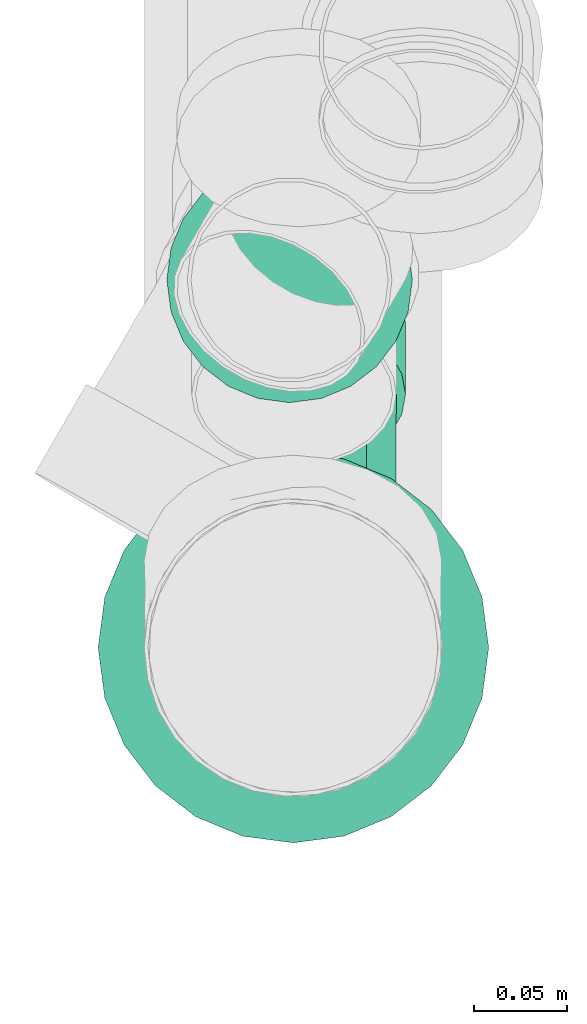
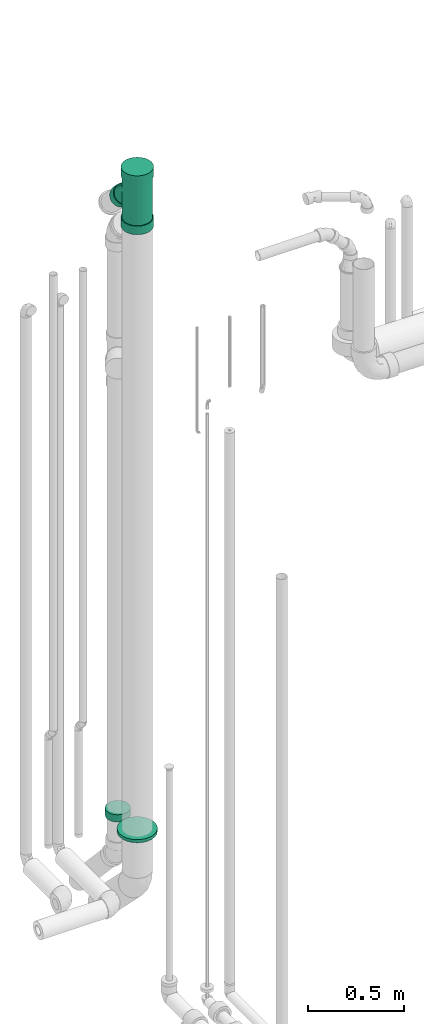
# One storey, part 52 of 78: 3 flow fittings.
"""IFC2X3 building model written with IfcOpenShell, lengths in millimetres."""

from ifc_helpers import new_model, entity, si_unit, converted_unit, derived_unit, direction, frame, origin_with_axes, place, context, subcontext, project, spatial, open_shell, surface_model, source, transform, mapped, type_object, element, save


model = new_model("IFC2X3")

# Units and contexts
model_context = context("Model", 3, precision=0.01, world=frame((0.0, 4.29681676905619e-09, 0.0)), true_north=direction((4.01073788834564e-13, 1.0)))
plan_context = context("Plan", 3, precision=0.01, world=frame((0.0, 4.29681676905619e-09, 0.0)), true_north=direction((4.01073788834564e-13, 1.0)))
body_context = subcontext(model_context, "Body", "Model", "MODEL_VIEW")
ifc_project = project(units=[converted_unit("PLANEANGLEUNIT", "DEGREE", entity("IfcPositiveLengthMeasure", 0.0174532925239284), si_unit("PLANEANGLEUNIT", "RADIAN"), dimensions=[0, 0, 0, 0, 0, 0, 0]), si_unit("AREAUNIT", "SQUARE_METRE"), si_unit("LENGTHUNIT", "METRE", prefix="MILLI"), si_unit("MASSUNIT", "GRAM", prefix="KILO"), si_unit("POWERUNIT", "WATT"), si_unit("PRESSUREUNIT", "PASCAL"), si_unit("FORCEUNIT", "NEWTON", prefix="KILO"), si_unit("ELECTRICVOLTAGEUNIT", "VOLT"), si_unit("ELECTRICCURRENTUNIT", "AMPERE"), si_unit("THERMODYNAMICTEMPERATUREUNIT", "DEGREE_CELSIUS"), si_unit("TIMEUNIT", "SECOND"), si_unit("VOLUMEUNIT", "CUBIC_METRE"), derived_unit("LINEARVELOCITYUNIT", [(si_unit("LENGTHUNIT", "METRE"), 1), (si_unit("TIMEUNIT", "SECOND"), -1)]), derived_unit("VOLUMETRICFLOWRATEUNIT", [(si_unit("VOLUMEUNIT", "CUBIC_METRE"), 1), (si_unit("TIMEUNIT", "SECOND"), -1)]), derived_unit("THERMALTRANSMITTANCEUNIT", [(si_unit("POWERUNIT", "WATT"), 1), (si_unit("THERMODYNAMICTEMPERATUREUNIT", "KELVIN"), -1), (si_unit("AREAUNIT", "SQUARE_METRE"), -1)]), derived_unit("SOUNDPRESSUREUNIT", [(si_unit("PRESSUREUNIT", "PASCAL"), 1)])], contexts=[model_context, plan_context])

# Site, building, storey
site_placement = place(None, frame((0.0, -4.29681676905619e-09, 0.0), z_axis=(0.0, 0.0, 1.0), x_axis=(1.0, 0.0, 0.0)))
site = spatial("IfcSite", under=ifc_project, at=site_placement, Name="ENGM", CompositionType="ELEMENT")
building_placement = place(site_placement, frame((0.0, 4.29681676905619e-09, 0.0), z_axis=(0.0, 0.0, 1.0), x_axis=(1.0, 0.0, 0.0)))
building = spatial("IfcBuilding", under=site, at=building_placement, Name="TH", CompositionType="ELEMENT")
storey_placement = place(building_placement, frame((0.0, 0.0, 205200.0), z_axis=(0.0, 0.0, 1.0), x_axis=(1.0, 0.0, 0.0)))
storey = spatial("IfcBuildingStorey", under=building, at=storey_placement, Name="Nivå D + 1,2 m", CompositionType="ELEMENT", Elevation=205200.0)

# Flow fittings
pipe_fitting_type_1 = type_object("IfcPipeFittingType", Name="magi_sewer_tee_wye_NOR", PredefinedType="JUNCTION")
shared_shape_1 = source(origin_with_axes(), body_context, "Body", "SurfaceModel", [
    surface_model("IfcShellBasedSurfaceModel", [(254.45941, 42.5, -73.61216), (254.45941, -21.99962, -82.10369), (254.45941, 21.99962, -82.10369), (254.45941, 73.61216, -42.5), (254.45941, 60.10408, -60.10408), (254.45941, 82.10369, -21.99962), (254.45941, 85.0, 0.0), (254.45941, -82.10369, -21.99962), (254.45941, -42.5, -73.61216), (254.45941, 0.0, -85.0), (254.45941, -60.10408, -60.10408), (254.45941, -73.61216, -42.5), (254.45941, 82.10369, 21.99962), (254.45941, 73.61216, 42.5), (254.45941, 60.10408, 60.10408), (254.45941, 21.99962, 82.10369), (254.45941, -73.61216, 42.5), (254.45941, 42.5, 73.61216), (254.45941, -21.99962, 82.10369), (254.45941, 0.0, 85.0), (254.45941, -82.10369, 21.99962), (254.45941, -85.0, 0.0), (254.45941, -60.10408, 60.10408), (254.45941, -42.5, 73.61216), (200.45942, 21.99962, 82.10369), (200.45942, -21.99962, 82.10369), (200.45942, 0.0, 85.0), (200.45942, 82.10369, 21.99962), (200.45942, 42.5, 73.61216), (200.45942, 60.10408, 60.10408), (200.45942, 73.61216, 42.5), (200.45942, -82.10369, -21.99962), (200.45942, -85.0, 0.0), (200.45942, -60.10408, 60.10408), (200.45942, -42.5, 73.61216), (200.45942, -73.61216, 42.5), (200.45942, -82.10369, 21.99962), (200.45942, 85.0, 0.0), (200.45942, 82.10369, -21.99962), (200.45942, 73.61216, -42.5), (200.45942, 42.5, -73.61216), (200.45942, 60.10408, -60.10408), (200.45942, -21.99962, -82.10369), (200.45942, 21.99962, -82.10369), (200.45942, -60.10408, -60.10408), (200.45942, -73.61216, -42.5), (200.45942, -42.5, -73.61216), (200.45942, 0.0, -85.0), (157.78174, -115.35534, -51.96152), (147.54931, -125.58778, -57.95555), (136.56854, -136.56854, -60.0), (99.82619, -173.3109, -30.0), (177.5493, -95.58778, -15.52914), (173.3109, -99.82619, -30.0), (166.56854, -106.56854, -42.42641), (106.56854, -166.56854, -42.42641), (115.35534, -157.78174, -51.96152), (125.58778, -147.54931, -57.95555), (95.58778, -177.5493, -15.52914), (99.82619, -173.3109, 30.0), (94.14214, -178.99494, 0.0), (95.58778, -177.5493, 15.52914), (177.5493, -95.58778, 15.52914), (173.3109, -99.82619, 30.0), (166.56854, -106.56854, 42.42641), (147.54931, -125.58778, 57.95555), (157.78174, -115.35534, 51.96152), (136.56854, -136.56854, 60.0), (106.56854, -166.56854, 42.42641), (115.35534, -157.78174, 51.96152), (125.58778, -147.54931, 57.95555), (178.99494, -94.14214, 0.0), (174.75231, -174.75231, -60.0), (185.73307, -163.77154, -57.95555), (195.96551, -153.5391, -51.96152), (211.49465, -138.00996, -30.0), (138.00996, -211.49465, -30.0), (204.75231, -144.75231, -42.42641), (215.73307, -133.77155, 15.52914), (153.5391, -195.96551, -51.96152), (144.75231, -204.75231, -42.42641), (163.77154, -185.73307, -57.95555), (133.77155, -215.73307, 15.52914), (133.77155, -215.73307, -15.52914), (132.3259, -217.17871, 0.0), (215.73307, -133.77155, -15.52914), (217.17871, -132.3259, 0.0), (211.49465, -138.00996, 30.0), (195.96551, -153.5391, 51.96152), (185.73307, -163.77154, 57.95555), (204.75231, -144.75231, 42.42641), (153.5391, -195.96551, 51.96152), (138.00996, -211.49465, 30.0), (144.75231, -204.75231, 42.42641), (174.75231, -174.75231, 60.0), (163.77154, -185.73307, 57.95555), (-117.89087, -42.5, -73.61216), (-117.89087, 21.99962, -82.10369), (-117.89087, -21.99962, -82.10369), (-117.89087, -73.61216, -42.5), (-117.89087, -60.10408, -60.10408), (-117.89087, -82.10369, -21.99962), (-117.89087, -85.0, 0.0), (-117.89087, 82.10369, -21.99962), (-117.89087, 42.5, -73.61216), (-117.89087, 0.0, -85.0), (-117.89087, 60.10408, -60.10408), (-117.89087, 73.61216, -42.5), (-117.89087, -82.10369, 21.99962), (-117.89087, -73.61216, 42.5), (-117.89087, -60.10408, 60.10408), (-117.89087, -21.99962, 82.10369), (-117.89087, 73.61216, 42.5), (-117.89087, -42.5, 73.61216), (-117.89087, 21.99962, 82.10369), (-117.89087, 0.0, 85.0), (-117.89087, 82.10369, 21.99962), (-117.89087, 85.0, 0.0), (-117.89087, 60.10408, 60.10408), (-117.89087, 42.5, 73.61216), (-63.89087, -21.99962, 82.10369), (-63.89087, 21.99962, 82.10369), (-63.89087, 0.0, 85.0), (-63.89087, -82.10369, 21.99962), (-63.89087, -42.5, 73.61216), (-63.89087, -60.10408, 60.10408), (-63.89087, -73.61216, 42.5), (-63.89087, 82.10369, -21.99962), (-63.89087, 85.0, 0.0), (-63.89087, 60.10408, 60.10408), (-63.89087, 42.5, 73.61216), (-63.89087, 73.61216, 42.5), (-63.89087, 82.10369, 21.99962), (-63.89087, -85.0, 0.0), (-63.89087, -82.10369, -21.99962), (-63.89087, -73.61216, -42.5), (-63.89087, -42.5, -73.61216), (-63.89087, -60.10408, -60.10408), (-63.89087, 21.99962, -82.10369), (-63.89087, -21.99962, -82.10369), (-63.89087, 60.10408, -60.10408), (-63.89087, 73.61216, -42.5), (-63.89087, 42.5, -73.61216), (-63.89087, 0.0, -85.0), (200.45942, 20.70552, -77.27406), (200.45942, 40.0, -69.28203), (200.45942, 56.56854, -56.56854), (200.45942, 69.28203, -40.0), (200.45942, 77.27406, -20.70552), (200.45942, 80.0, 0.0), (200.45942, -77.27406, -20.70552), (200.45942, -80.0, 0.0), (200.45942, 56.56854, 56.56854), (200.45942, -20.70552, -77.27406), (200.45942, -56.56854, -56.56854), (200.45942, -40.0, -69.28203), (200.45942, 0.0, -80.0), (200.45942, -69.28203, -40.0), (200.45942, 69.28203, 40.0), (200.45942, 40.0, 69.28203), (200.45942, 20.70552, 77.27406), (200.45942, 0.0, 80.0), (200.45942, -77.27406, 20.70552), (200.45942, -56.56854, 56.56854), (200.45942, -69.28203, 40.0), (200.45942, -40.0, 69.28203), (200.45942, -20.70552, 77.27406), (200.45942, 77.27406, 20.70552), (-63.89087, 0.0, 80.0), (-63.89087, 20.70552, 77.27406), (-63.89087, 40.0, 69.28203), (-63.89087, -40.0, 69.28203), (-63.89087, 56.56854, 56.56854), (-63.89087, 69.28203, 40.0), (-63.89087, 77.27406, 20.70552), (-63.89087, -77.27406, 20.70552), (-63.89087, -56.56854, 56.56854), (-63.89087, -20.70552, 77.27406), (-63.89087, -69.28203, 40.0), (-63.89087, -80.0, 0.0), (-63.89087, 80.0, 0.0), (-63.89087, 77.27406, -20.70552), (-63.89087, 69.28203, -40.0), (-63.89087, 20.70552, -77.27406), (-63.89087, 56.56854, -56.56854), (-63.89087, 40.0, -69.28203), (-63.89087, -77.27406, -20.70552), (-63.89087, -56.56854, -56.56854), (-63.89087, -69.28203, -40.0), (-63.89087, -40.0, -69.28203), (-63.89087, -20.70552, -77.27406), (-63.89087, 0.0, -80.0), (2.21825, -80.0, 0.0), (5.37269, -77.13629, -21.21303), (15.08193, -69.79992, -39.08927), (-63.89087, -62.92529, -48.28427), (31.54924, -61.94252, -50.62731), (52.45448, -58.23854, -54.84772), (134.11724, -72.58271, -33.6415), (200.45942, -73.27805, -30.35276), (157.78174, -80.0, 0.0), (150.09411, -77.51627, -19.77949), (142.10568, -75.04949, -26.71049), (95.20469, -62.5225, -49.90929), (115.34457, -67.29918, -43.25298), (74.12733, -59.06322, -53.95865), (52.45448, -58.23854, 54.84772), (15.08193, -69.79992, 39.08927), (-63.89087, -62.92529, 48.28427), (142.10568, -75.04949, 26.71049), (150.09411, -77.51627, 19.77949), (31.54924, -61.94252, 50.62731), (5.37269, -77.13629, 21.21303), (74.12733, -59.06322, 53.95865), (95.20469, -62.5225, 49.90929), (115.34457, -67.29918, 43.25298), (134.11724, -72.58271, 33.6415), (200.45942, -73.27805, 30.35276), (146.63425, -126.50284, -53.12592), (126.50284, -146.63425, -53.12592), (136.56854, -136.56854, -55.0), (174.13425, -99.00284, -14.23505), (156.01399, -117.1231, -47.63139), (164.06855, -109.06854, -38.89087), (170.24902, -102.88806, -27.5), (174.13425, -99.00284, 14.23505), (109.06854, -164.06855, -38.89087), (117.1231, -156.01399, -47.63139), (99.00284, -174.13425, -14.23505), (102.88806, -170.24902, -27.5), (102.88806, -170.24902, 27.5), (99.00284, -174.13425, 14.23505), (97.67767, -175.45942, 0.0), (164.06855, -109.06854, 38.89087), (170.24902, -102.88806, 27.5), (156.01399, -117.1231, 47.63139), (136.56854, -136.56854, 55.0), (146.63425, -126.50284, 53.12592), (117.1231, -156.01399, 47.63139), (109.06854, -164.06855, 38.89087), (126.50284, -146.63425, 53.12592), (175.45942, -97.67767, 0.0), (23.31558, -65.87122, 44.85829), (3.79547, -78.56814, 10.60652), (153.93793, -78.75814, 9.88974), (174.79683, -98.34025, 7.11752), (10.22731, -73.46811, 30.15115), (155.85984, -79.37907, 4.94487), (172.19163, -100.94546, 20.86752), (167.15878, -105.9783, 33.19544), (152.01602, -78.1372, 14.83462), (174.79683, -98.34025, -7.11752), (153.93793, -78.75814, -9.88974), (172.19163, -100.94546, -20.86752), (167.15878, -105.9783, -33.19544), (155.85984, -79.37907, -4.94487), (152.01602, -78.1372, -14.83462), (10.22731, -73.46811, -30.15115), (23.31558, -65.87122, -44.85829), (3.79547, -78.56814, -10.60652)], [open_shell([[[0, 1, 2]], [[3, 0, 4]], [[3, 5, 6]], [[3, 6, 0]], [[1, 0, 6]], [[1, 7, 8]], [[1, 9, 2]], [[10, 7, 11]], [[7, 10, 8]], [[6, 7, 1]], [[6, 12, 7]], [[12, 13, 14]], [[12, 14, 15]], [[7, 15, 16]], [[15, 14, 17]], [[18, 15, 19]], [[16, 20, 7]], [[21, 7, 20]], [[22, 18, 23]], [[18, 22, 16]], [[18, 16, 15]], [[15, 7, 12]], [[24, 25, 26]], [[27, 24, 28]], [[29, 30, 27]], [[29, 27, 28]], [[31, 32, 24]], [[25, 33, 34]], [[33, 25, 35]], [[25, 36, 35]], [[36, 25, 32]], [[25, 24, 32]], [[24, 27, 31]], [[37, 38, 39]], [[37, 39, 40]], [[40, 31, 27]], [[40, 39, 41]], [[42, 40, 43]], [[31, 44, 45]], [[44, 31, 46]], [[31, 42, 46]], [[31, 40, 42]], [[43, 47, 42]], [[40, 27, 37]], [[31, 7, 32]], [[45, 11, 31]], [[8, 44, 46]], [[45, 44, 10]], [[1, 46, 42]], [[31, 11, 7]], [[7, 21, 32]], [[1, 8, 46]], [[10, 44, 8]], [[10, 11, 45]], [[9, 1, 42]], [[42, 47, 9]], [[0, 40, 41]], [[3, 39, 38]], [[41, 39, 4]], [[37, 5, 38]], [[40, 2, 43]], [[40, 0, 2]], [[2, 9, 43]], [[41, 4, 0]], [[39, 3, 4]], [[5, 3, 38]], [[37, 6, 5]], [[43, 9, 47]], [[27, 12, 37]], [[30, 13, 27]], [[17, 29, 28]], [[30, 29, 14]], [[15, 28, 24]], [[27, 13, 12]], [[12, 6, 37]], [[15, 17, 28]], [[14, 29, 17]], [[14, 13, 30]], [[19, 15, 24]], [[24, 26, 19]], [[18, 25, 34]], [[33, 23, 34]], [[16, 35, 36]], [[33, 35, 22]], [[20, 36, 32]], [[25, 18, 26]], [[34, 23, 18]], [[26, 18, 19]], [[33, 22, 23]], [[35, 16, 22]], [[20, 16, 36]], [[32, 21, 20]], [[48, 49, 50]], [[48, 50, 51]], [[52, 53, 54]], [[48, 52, 54]], [[52, 48, 51]], [[55, 51, 56]], [[50, 57, 56]], [[58, 59, 51]], [[51, 50, 56]], [[58, 60, 61]], [[52, 51, 59]], [[62, 52, 59]], [[63, 62, 64]], [[62, 65, 66]], [[64, 62, 66]], [[65, 62, 67]], [[59, 68, 62]], [[59, 58, 61]], [[69, 70, 68]], [[67, 68, 70]], [[62, 68, 67]], [[62, 71, 52]], [[72, 73, 74]], [[72, 74, 75]], [[72, 75, 76]], [[75, 74, 77]], [[76, 75, 78]], [[79, 76, 80]], [[76, 79, 81]], [[76, 82, 83]], [[76, 81, 72]], [[82, 84, 83]], [[75, 85, 86]], [[82, 76, 78]], [[87, 82, 78]], [[88, 89, 87]], [[88, 87, 90]], [[89, 91, 87]], [[92, 91, 93]], [[91, 92, 82]], [[91, 94, 95]], [[91, 82, 87]], [[89, 94, 91]], [[78, 75, 86]], [[82, 60, 84]], [[92, 61, 82]], [[91, 95, 70]], [[93, 91, 69]], [[93, 59, 92]], [[92, 59, 61]], [[61, 60, 82]], [[68, 59, 93]], [[70, 69, 91]], [[95, 67, 70]], [[68, 93, 69]], [[95, 94, 67]], [[66, 89, 88]], [[90, 64, 88]], [[62, 87, 78]], [[90, 87, 63]], [[71, 78, 86]], [[89, 65, 94]], [[89, 66, 65]], [[94, 65, 67]], [[88, 64, 66]], [[90, 63, 64]], [[62, 63, 87]], [[78, 71, 62]], [[71, 86, 85]], [[52, 85, 75]], [[48, 77, 74]], [[49, 74, 73]], [[75, 77, 53]], [[85, 52, 71]], [[52, 75, 53]], [[53, 77, 54]], [[77, 48, 54]], [[49, 48, 74]], [[73, 50, 49]], [[73, 72, 50]], [[56, 81, 79]], [[80, 55, 79]], [[58, 76, 83]], [[80, 76, 51]], [[60, 83, 84]], [[81, 57, 72]], [[81, 56, 57]], [[72, 57, 50]], [[79, 55, 56]], [[80, 51, 55]], [[58, 51, 76]], [[83, 60, 58]], [[96, 97, 98]], [[99, 96, 100]], [[99, 101, 102]], [[99, 102, 96]], [[97, 96, 102]], [[97, 103, 104]], [[97, 105, 98]], [[106, 103, 107]], [[103, 106, 104]], [[102, 103, 97]], [[102, 108, 103]], [[108, 109, 110]], [[108, 110, 111]], [[103, 111, 112]], [[111, 110, 113]], [[114, 111, 115]], [[112, 116, 103]], [[117, 103, 116]], [[118, 114, 119]], [[114, 118, 112]], [[114, 112, 111]], [[111, 103, 108]], [[120, 121, 122]], [[123, 120, 124]], [[125, 126, 123]], [[125, 123, 124]], [[127, 128, 120]], [[121, 129, 130]], [[129, 121, 131]], [[121, 132, 131]], [[132, 121, 128]], [[121, 120, 128]], [[120, 123, 127]], [[133, 134, 135]], [[133, 135, 136]], [[136, 127, 123]], [[136, 135, 137]], [[138, 136, 139]], [[127, 140, 141]], [[140, 127, 142]], [[127, 138, 142]], [[127, 136, 138]], [[139, 143, 138]], [[136, 123, 133]], [[127, 103, 128]], [[141, 107, 127]], [[104, 140, 142]], [[141, 140, 106]], [[97, 142, 138]], [[127, 107, 103]], [[103, 117, 128]], [[97, 104, 142]], [[106, 140, 104]], [[106, 107, 141]], [[105, 97, 138]], [[138, 143, 105]], [[96, 136, 137]], [[99, 135, 134]], [[137, 135, 100]], [[133, 101, 134]], [[136, 98, 139]], [[136, 96, 98]], [[98, 105, 139]], [[137, 100, 96]], [[135, 99, 100]], [[101, 99, 134]], [[133, 102, 101]], [[139, 105, 143]], [[123, 108, 133]], [[126, 109, 123]], [[113, 125, 124]], [[126, 125, 110]], [[111, 124, 120]], [[123, 109, 108]], [[108, 102, 133]], [[111, 113, 124]], [[110, 125, 113]], [[110, 109, 126]], [[115, 111, 120]], [[120, 122, 115]], [[114, 121, 130]], [[129, 119, 130]], [[112, 131, 132]], [[129, 131, 118]], [[116, 132, 128]], [[121, 114, 122]], [[130, 119, 114]], [[122, 114, 115]], [[129, 118, 119]], [[131, 112, 118]], [[116, 112, 132]], [[128, 117, 116]], [[144, 145, 146]], [[144, 146, 147]], [[147, 148, 149]], [[150, 144, 151]], [[147, 152, 144]], [[153, 154, 155]], [[153, 156, 144]], [[154, 150, 157]], [[154, 153, 144]], [[150, 154, 144]], [[147, 149, 158]], [[158, 152, 147]], [[151, 144, 152]], [[159, 160, 161]], [[152, 159, 162]], [[161, 163, 159]], [[162, 163, 164]], [[162, 151, 152]], [[161, 165, 163]], [[162, 159, 163]], [[166, 165, 161]], [[158, 149, 167]], [[168, 169, 170]], [[171, 168, 170]], [[172, 173, 174]], [[171, 170, 172]], [[171, 172, 174]], [[171, 175, 176]], [[171, 177, 168]], [[176, 175, 178]], [[175, 171, 179]], [[174, 179, 171]], [[174, 180, 179]], [[180, 181, 182]], [[180, 182, 183]], [[184, 185, 183]], [[184, 183, 182]], [[183, 186, 179]], [[186, 187, 188]], [[187, 186, 189]], [[183, 190, 189]], [[189, 186, 183]], [[191, 190, 183]], [[183, 179, 180]], [[179, 186, 192]], [[193, 192, 186]], [[186, 194, 193]], [[195, 187, 196]], [[194, 188, 195]], [[197, 196, 187]], [[187, 189, 197]], [[188, 194, 186]], [[198, 157, 199]], [[200, 201, 151]], [[150, 151, 201]], [[198, 199, 202]], [[157, 203, 154]], [[150, 202, 199]], [[198, 204, 157]], [[157, 204, 203]], [[150, 201, 202]], [[203, 205, 154]], [[194, 195, 196]], [[197, 154, 205]], [[153, 190, 191]], [[155, 189, 190]], [[156, 191, 183]], [[182, 181, 147]], [[145, 185, 184]], [[146, 184, 182]], [[183, 185, 144]], [[148, 181, 180]], [[197, 155, 154]], [[153, 155, 190]], [[191, 156, 153]], [[144, 156, 183]], [[185, 145, 144]], [[145, 184, 146]], [[147, 146, 182]], [[148, 147, 181]], [[180, 149, 148]], [[155, 197, 189]], [[158, 174, 173]], [[158, 173, 172]], [[180, 174, 167]], [[168, 177, 161]], [[159, 170, 169]], [[160, 169, 168]], [[172, 170, 152]], [[166, 177, 171]], [[167, 174, 158]], [[172, 152, 158]], [[167, 149, 180]], [[170, 159, 152]], [[159, 169, 160]], [[161, 160, 168]], [[166, 161, 177]], [[165, 166, 171]], [[171, 206, 165]], [[178, 207, 208]], [[162, 209, 210]], [[211, 206, 176]], [[207, 211, 208]], [[206, 163, 165]], [[175, 179, 192]], [[212, 207, 175]], [[192, 212, 175]], [[175, 207, 178]], [[213, 214, 163]], [[211, 176, 208]], [[214, 164, 163]], [[164, 214, 215]], [[164, 215, 216]], [[217, 216, 209]], [[213, 163, 206]], [[162, 217, 209]], [[210, 151, 162]], [[151, 210, 200]], [[216, 217, 164]], [[206, 171, 176]], [[218, 219, 220]], [[221, 218, 222]], [[223, 224, 221]], [[223, 221, 222]], [[218, 225, 219]], [[219, 226, 227]], [[226, 219, 228]], [[226, 228, 229]], [[228, 219, 230]], [[228, 231, 232]], [[225, 218, 221]], [[219, 225, 230]], [[233, 225, 234]], [[225, 235, 236]], [[235, 225, 233]], [[237, 236, 235]], [[230, 238, 239]], [[231, 228, 230]], [[238, 236, 240]], [[238, 230, 225]], [[236, 238, 225]], [[225, 221, 241]], [[212, 231, 230]], [[238, 211, 242]], [[211, 238, 240]], [[242, 239, 238]], [[206, 240, 236]], [[243, 232, 231]], [[192, 232, 243]], [[244, 225, 245]], [[239, 246, 230]], [[207, 239, 242]], [[246, 239, 207]], [[231, 212, 243]], [[240, 206, 211]], [[241, 247, 245]], [[236, 213, 206]], [[214, 237, 235]], [[233, 215, 235]], [[210, 248, 225]], [[234, 209, 249]], [[245, 247, 244]], [[237, 214, 213]], [[214, 235, 215]], [[247, 241, 200]], [[248, 209, 234]], [[216, 233, 249]], [[216, 249, 209]], [[250, 210, 225]], [[209, 248, 210]], [[215, 233, 216]], [[225, 244, 250]], [[237, 213, 236]], [[246, 212, 230]], [[251, 221, 252]], [[202, 253, 224]], [[204, 223, 222]], [[254, 223, 198]], [[203, 222, 218]], [[201, 221, 253]], [[251, 255, 241]], [[201, 253, 202]], [[202, 254, 198]], [[222, 203, 204]], [[203, 218, 205]], [[221, 256, 252]], [[254, 202, 224]], [[198, 223, 204]], [[221, 201, 256]], [[218, 220, 205]], [[196, 219, 227]], [[229, 193, 257]], [[193, 229, 228]], [[257, 226, 229]], [[219, 197, 220]], [[219, 196, 197]], [[251, 252, 255]], [[220, 197, 205]], [[226, 258, 227]], [[194, 226, 257]], [[259, 232, 192]], [[258, 196, 227]], [[232, 259, 228]], [[258, 226, 194]], [[259, 193, 228]], [[241, 255, 200]]])]),
])
flow_fitting_1_placement = place(storey_placement, frame((895839.4078, 479825.2648, 8722.87419), z_axis=(-1.0, 0.0, 0.0), x_axis=(0.0, 3.999999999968e-06, -0.999999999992)))
element("IfcFlowFitting", 1, at=flow_fitting_1_placement, inside=storey, type_object=pipe_fitting_type_1, Name="magi_sewer_tee_wye_NOR", context=body_context, shape_type="MappedRepresentation", body=[
    mapped(shared_shape_1, transform((0.0, 0.0, 0.0), scale=1.0)),
])
pipe_fitting_type_2 = type_object("IfcPipeFittingType", Name="magi_sewer_union_NOR", PredefinedType="CONNECTOR")
shared_shape_2 = source(origin_with_axes(), body_context, "Body", "SurfaceModel", [
    surface_model("IfcShellBasedSurfaceModel", [(0.0, 17.08206, -63.75111), (0.0, 0.0, -66.0), (0.0, 63.75111, -17.08206), (0.0, 33.0, -57.15768), (0.0, 46.66905, -46.66905), (0.0, 57.15768, -33.0), (0.0, -63.75111, -17.08206), (0.0, -33.0, -57.15768), (0.0, -46.66905, -46.66905), (0.0, -17.08206, -63.75111), (0.0, -57.15768, -33.0), (0.0, -66.0, 0.0), (0.0, -33.0, 57.15768), (0.0, 33.0, 57.15768), (0.0, 63.75111, 17.08206), (0.0, 66.0, 0.0), (0.0, 46.66905, 46.66905), (0.0, 57.15768, 33.0), (0.0, 17.08206, 63.75111), (0.0, 0.0, 66.0), (0.0, -57.15768, 33.0), (0.0, -46.66905, 46.66905), (0.0, -63.75111, 17.08206), (0.0, -17.08206, 63.75111), (46.5, 63.75111, -17.08206), (46.5, 0.0, -66.0), (46.5, 17.08206, -63.75111), (46.5, 46.66905, -46.66905), (46.5, 33.0, -57.15768), (46.5, 57.15768, -33.0), (46.5, -63.75111, -17.08206), (46.5, -17.08206, -63.75111), (46.5, -46.66905, -46.66905), (46.5, -33.0, -57.15768), (46.5, -57.15768, -33.0), (46.5, -63.75111, 17.08206), (46.5, -66.0, 0.0), (46.5, 46.66905, 46.66905), (46.5, 66.0, 0.0), (46.5, 63.75111, 17.08206), (46.5, 57.15768, 33.0), (46.5, 33.0, 57.15768), (46.5, 0.0, 66.0), (46.5, 17.08206, 63.75111), (46.5, -46.66905, 46.66905), (46.5, -57.15768, 33.0), (46.5, -33.0, 57.15768), (46.5, -17.08206, 63.75111)], [open_shell([[[0, 1, 2]], [[3, 0, 4]], [[2, 5, 4]], [[0, 2, 4]], [[6, 2, 1]], [[7, 8, 9]], [[8, 1, 9]], [[10, 6, 8]], [[8, 6, 1]], [[11, 12, 6]], [[13, 2, 6]], [[14, 15, 16]], [[17, 14, 16]], [[13, 6, 12]], [[16, 15, 13]], [[18, 13, 19]], [[20, 21, 22]], [[21, 11, 22]], [[23, 19, 12]], [[21, 12, 11]], [[12, 19, 13]], [[15, 2, 13]], [[24, 25, 26]], [[27, 26, 28]], [[27, 29, 24]], [[27, 24, 26]], [[25, 24, 30]], [[31, 32, 33]], [[31, 25, 32]], [[32, 30, 34]], [[25, 30, 32]], [[30, 35, 36]], [[30, 24, 35]], [[37, 38, 39]], [[37, 39, 40]], [[38, 41, 35]], [[41, 38, 37]], [[42, 41, 43]], [[35, 44, 45]], [[44, 35, 46]], [[46, 42, 47]], [[46, 35, 41]], [[41, 42, 46]], [[38, 35, 24]], [[35, 11, 36]], [[45, 22, 35]], [[21, 44, 46]], [[45, 44, 20]], [[12, 46, 47]], [[45, 20, 22]], [[22, 11, 35]], [[23, 42, 19]], [[23, 12, 47]], [[21, 46, 12]], [[21, 20, 44]], [[42, 23, 47]], [[16, 41, 37]], [[18, 43, 41]], [[14, 40, 39]], [[37, 40, 17]], [[38, 15, 39]], [[18, 19, 43]], [[18, 41, 13]], [[41, 16, 13]], [[37, 17, 16]], [[14, 17, 40]], [[39, 15, 14]], [[43, 19, 42]], [[24, 15, 38]], [[29, 2, 24]], [[4, 27, 28]], [[29, 27, 5]], [[3, 28, 26]], [[29, 5, 2]], [[2, 15, 24]], [[0, 25, 1]], [[0, 3, 26]], [[4, 28, 3]], [[4, 5, 27]], [[25, 0, 26]], [[7, 31, 33]], [[32, 8, 33]], [[6, 34, 30]], [[32, 34, 10]], [[11, 30, 36]], [[1, 31, 9]], [[9, 31, 7]], [[33, 8, 7]], [[32, 10, 8]], [[6, 10, 34]], [[11, 6, 30]], [[31, 1, 25]]])]),
])
flow_fitting_2_placement = place(storey_placement, frame((895837.03993, 480023.27263, 4617.62138999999), z_axis=(0.0, 1.0, 0.0), x_axis=(0.0, 0.0, 1.0)))
element("IfcFlowFitting", 2, at=flow_fitting_2_placement, inside=storey, type_object=pipe_fitting_type_2, Name="magi_sewer_union_NOR", context=body_context, shape_type="MappedRepresentation", body=[
    mapped(shared_shape_2, transform((0.0, 0.0, 0.0), scale=1.0)),
])
pipe_fitting_type_3 = type_object("IfcPipeFittingType", Name="magi_pipe_fe_joint_001", PredefinedType="CONNECTOR")
shared_shape_3 = source(origin_with_axes(), body_context, "Body", "SurfaceModel", [
    surface_model("IfcShellBasedSurfaceModel", [(0.0, 40.0, -69.28203), (0.0, 20.70552, -77.27406), (0.0, 0.0, -80.0), (0.0, -56.56854, -56.56854), (0.0, 77.27406, -20.70552), (0.0, 69.28203, -40.0), (0.0, 56.56854, -56.56854), (0.0, 77.27406, 20.70552), (0.0, -20.70552, -77.27406), (0.0, -40.0, -69.28203), (0.0, -69.28203, -40.0), (0.0, -77.27406, -20.70552), (0.0, -80.0, 0.0), (0.0, 80.0, 0.0), (0.0, -69.28203, 40.0), (0.0, 69.28203, 40.0), (0.0, 40.0, 69.28203), (0.0, 20.70552, 77.27406), (0.0, 56.56854, 56.56854), (0.0, -56.56854, 56.56854), (0.0, -77.27406, 20.70552), (0.0, -20.70552, 77.27406), (0.0, 0.0, 80.0), (0.0, -40.0, 69.28203), (0.0, 0.0, -105.0), (0.0, -27.176, -101.42222), (0.0, 27.176, -101.42222), (0.0, 52.5, -90.93267), (0.0, 101.42222, -27.176), (0.0, 90.93267, -52.5), (0.0, 74.24621, -74.24621), (0.0, -74.24621, -74.24621), (0.0, -52.5, -90.93267), (0.0, -90.93267, -52.5), (0.0, -101.42222, -27.176), (0.0, -105.0, 0.0), (0.0, -52.5, 90.93267), (0.0, 101.42222, 27.176), (0.0, 27.176, 101.42222), (0.0, 90.93267, 52.5), (0.0, 52.5, 90.93267), (0.0, 74.24621, 74.24621), (0.0, -74.24621, 74.24621), (0.0, -90.93267, 52.5), (0.0, -101.42222, 27.176), (0.0, -27.176, 101.42222), (0.0, 0.0, 105.0), (0.0, 105.0, 0.0), (20.0, 27.176, -101.42222), (20.0, -27.176, -101.42222), (20.0, 0.0, -105.0), (20.0, 101.42222, -27.176), (20.0, 52.5, -90.93267), (20.0, 74.24621, -74.24621), (20.0, 90.93267, -52.5), (20.0, -74.24621, -74.24621), (20.0, -52.5, -90.93267), (20.0, -101.42222, -27.176), (20.0, -90.93267, -52.5), (20.0, -105.0, 0.0), (20.0, -52.5, 90.93267), (20.0, 101.42222, 27.176), (20.0, 27.176, 101.42222), (20.0, 52.5, 90.93267), (20.0, 90.93267, 52.5), (20.0, 74.24621, 74.24621), (20.0, -90.93267, 52.5), (20.0, -74.24621, 74.24621), (20.0, -101.42222, 27.176), (20.0, -27.176, 101.42222), (20.0, 0.0, 105.0), (20.0, 105.0, 0.0), (20.0, 0.0, -80.0), (20.0, 20.70552, -77.27406), (20.0, 40.0, -69.28203), (20.0, -56.56854, -56.56854), (20.0, 56.56854, -56.56854), (20.0, 69.28203, -40.0), (20.0, 77.27406, -20.70552), (20.0, -40.0, -69.28203), (20.0, -20.70552, -77.27406), (20.0, -69.28203, -40.0), (20.0, -80.0, 0.0), (20.0, -77.27406, -20.70552), (20.0, 77.27406, 20.70552), (20.0, -69.28203, 40.0), (20.0, 40.0, 69.28203), (20.0, 69.28203, 40.0), (20.0, 20.70552, 77.27406), (20.0, 56.56854, 56.56854), (20.0, -56.56854, 56.56854), (20.0, -77.27406, 20.70552), (20.0, -40.0, 69.28203), (20.0, 0.0, 80.0), (20.0, -20.70552, 77.27406), (20.0, 80.0, 0.0)], [open_shell([[[0, 1, 2]], [[0, 2, 3]], [[4, 5, 6]], [[6, 0, 3]], [[6, 3, 7]], [[8, 9, 2]], [[9, 3, 2]], [[10, 11, 3]], [[12, 3, 11]], [[12, 7, 3]], [[4, 6, 13]], [[7, 12, 14]], [[15, 7, 16]], [[7, 17, 16]], [[18, 15, 16]], [[17, 7, 14]], [[14, 19, 17]], [[14, 12, 20]], [[21, 22, 23]], [[19, 23, 17]], [[23, 22, 17]], [[7, 13, 6]], [[24, 25, 26]], [[27, 26, 28]], [[28, 29, 30]], [[27, 28, 30]], [[28, 26, 31]], [[32, 31, 25]], [[31, 26, 25]], [[33, 34, 31]], [[35, 31, 34]], [[35, 36, 31]], [[36, 28, 31]], [[37, 28, 38]], [[39, 37, 40]], [[37, 38, 40]], [[41, 39, 40]], [[36, 38, 28]], [[42, 36, 43]], [[43, 35, 44]], [[36, 45, 38]], [[43, 36, 35]], [[38, 45, 46]], [[47, 28, 37]], [[48, 49, 50]], [[51, 48, 52]], [[53, 54, 51]], [[53, 51, 52]], [[55, 48, 51]], [[49, 55, 56]], [[49, 48, 55]], [[55, 57, 58]], [[57, 55, 59]], [[51, 59, 55]], [[51, 60, 59]], [[51, 61, 62]], [[63, 61, 64]], [[63, 62, 61]], [[63, 64, 65]], [[51, 62, 60]], [[66, 60, 67]], [[68, 59, 66]], [[62, 69, 60]], [[59, 60, 66]], [[70, 69, 62]], [[71, 61, 51]], [[68, 35, 59]], [[66, 44, 68]], [[42, 67, 60]], [[66, 67, 43]], [[36, 60, 69]], [[66, 43, 44]], [[44, 35, 68]], [[45, 70, 46]], [[45, 36, 69]], [[42, 60, 36]], [[42, 43, 67]], [[70, 45, 69]], [[63, 38, 62]], [[65, 40, 63]], [[39, 64, 61]], [[65, 64, 41]], [[37, 61, 71]], [[63, 40, 38]], [[38, 46, 62]], [[37, 39, 61]], [[41, 64, 39]], [[41, 40, 65]], [[47, 37, 71]], [[62, 46, 70]], [[51, 47, 71]], [[54, 28, 51]], [[30, 53, 52]], [[54, 53, 29]], [[27, 52, 48]], [[54, 29, 28]], [[28, 47, 51]], [[26, 50, 24]], [[26, 27, 48]], [[30, 52, 27]], [[30, 29, 53]], [[50, 26, 48]], [[25, 49, 56]], [[55, 32, 56]], [[57, 59, 35]], [[58, 57, 33]], [[31, 55, 58]], [[56, 32, 25]], [[25, 24, 49]], [[33, 57, 34]], [[57, 35, 34]], [[31, 32, 55]], [[31, 58, 33]], [[49, 24, 50]], [[72, 73, 74]], [[75, 72, 74]], [[76, 77, 78]], [[75, 74, 76]], [[75, 76, 78]], [[72, 79, 80]], [[72, 75, 79]], [[81, 82, 83]], [[82, 81, 75]], [[78, 82, 75]], [[78, 84, 82]], [[82, 84, 85]], [[86, 84, 87]], [[86, 88, 84]], [[86, 87, 89]], [[85, 84, 88]], [[88, 90, 85]], [[91, 82, 85]], [[92, 93, 94]], [[88, 92, 90]], [[88, 93, 92]], [[84, 78, 95]], [[91, 12, 82]], [[85, 20, 91]], [[19, 90, 92]], [[85, 90, 14]], [[23, 92, 94]], [[85, 14, 20]], [[20, 12, 91]], [[21, 93, 22]], [[21, 23, 94]], [[19, 92, 23]], [[19, 14, 90]], [[93, 21, 94]], [[86, 17, 88]], [[89, 16, 86]], [[15, 87, 84]], [[89, 87, 18]], [[7, 84, 95]], [[86, 16, 17]], [[17, 22, 88]], [[7, 15, 84]], [[18, 87, 15]], [[18, 16, 89]], [[13, 7, 95]], [[88, 22, 93]], [[78, 13, 95]], [[77, 4, 78]], [[6, 76, 74]], [[77, 76, 5]], [[0, 74, 73]], [[77, 5, 4]], [[4, 13, 78]], [[1, 72, 2]], [[1, 0, 73]], [[6, 74, 0]], [[6, 5, 76]], [[72, 1, 73]], [[79, 8, 80]], [[75, 9, 79]], [[83, 82, 12]], [[75, 81, 3]], [[81, 83, 10]], [[79, 9, 8]], [[8, 2, 80]], [[11, 10, 83]], [[3, 81, 10]], [[3, 9, 75]], [[12, 11, 83]], [[80, 2, 72]]])]),
])
flow_fitting_3_placement = place(storey_placement, frame((895839.09482, 479825.59231, 4653.17916), z_axis=(-0.866025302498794, -0.500000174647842, 2.80000097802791e-05), x_axis=(-8.130481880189e-05, 8.482401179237e-05, -0.999999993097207)))
element("IfcFlowFitting", 3, at=flow_fitting_3_placement, inside=storey, type_object=pipe_fitting_type_3, Name="magi_pipe_fe_joint_001", context=body_context, shape_type="MappedRepresentation", body=[
    mapped(shared_shape_3, transform((0.0, 0.0, 0.0), scale=1.0)),
])

save(model, "model.ifc")
